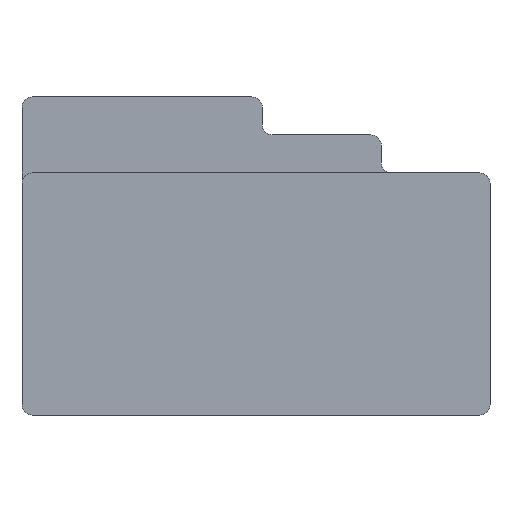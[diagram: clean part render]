
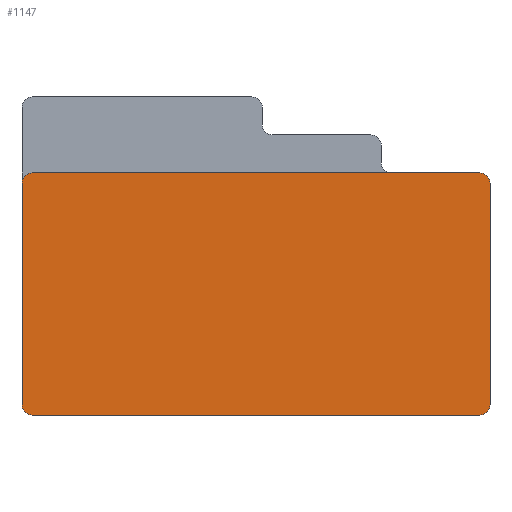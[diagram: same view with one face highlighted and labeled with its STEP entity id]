
A CAD part, front view. The second image highlights one B-rep face of the part: STEP entity #1147.
In plain terms, the highlighted planar face has unit normal (0, -1, 0).
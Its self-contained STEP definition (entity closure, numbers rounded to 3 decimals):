
#210=CARTESIAN_POINT('',(-10.9,-11.6,11.3));
#211=DIRECTION('',(0.,-1.,0.));
#212=DIRECTION('',(0.,0.,1.));
#213=AXIS2_PLACEMENT_3D('',#210,#211,#212);
#215=CARTESIAN_POINT('',(10.9,-11.6,11.3));
#216=DIRECTION('',(0.,-1.,0.));
#217=DIRECTION('',(1.,0.,0.));
#218=AXIS2_PLACEMENT_3D('',#215,#216,#217);
#220=CARTESIAN_POINT('',(10.9,-11.6,0.5));
#221=DIRECTION('',(0.,-1.,0.));
#222=DIRECTION('',(0.,0.,-1.));
#223=AXIS2_PLACEMENT_3D('',#220,#221,#222);
#225=CARTESIAN_POINT('',(-10.9,-11.6,0.5));
#226=DIRECTION('',(0.,-1.,0.));
#227=DIRECTION('',(-1.,0.,0.));
#228=AXIS2_PLACEMENT_3D('',#225,#226,#227);
#230=DIRECTION('',(0.,0.,1.));
#231=VECTOR('',#230,10.8);
#232=CARTESIAN_POINT('',(-11.4,-11.6,0.5));
#233=LINE('',#232,#231);
#318=DIRECTION('',(1.,0.,0.));
#319=VECTOR('',#318,21.8);
#320=CARTESIAN_POINT('',(-10.9,-11.6,11.8));
#321=LINE('',#320,#319);
#510=DIRECTION('',(1.,0.,0.));
#511=VECTOR('',#510,21.8);
#512=CARTESIAN_POINT('',(-10.9,-11.6,0.));
#513=LINE('',#512,#511);
#580=DIRECTION('',(0.,0.,1.));
#581=VECTOR('',#580,10.8);
#582=CARTESIAN_POINT('',(11.4,-11.6,0.5));
#583=LINE('',#582,#581);
#744=CARTESIAN_POINT('',(-10.9,-11.6,11.8));
#745=CARTESIAN_POINT('',(-11.4,-11.6,11.3));
#746=VERTEX_POINT('',#744);
#747=VERTEX_POINT('',#745);
#772=CARTESIAN_POINT('',(11.4,-11.6,11.3));
#773=VERTEX_POINT('',#772);
#774=CARTESIAN_POINT('',(10.9,-11.6,11.8));
#775=VERTEX_POINT('',#774);
#776=CARTESIAN_POINT('',(10.9,-11.6,0.));
#777=CARTESIAN_POINT('',(11.4,-11.6,0.5));
#778=VERTEX_POINT('',#776);
#779=VERTEX_POINT('',#777);
#788=CARTESIAN_POINT('',(-11.4,-11.6,0.5));
#789=VERTEX_POINT('',#788);
#790=CARTESIAN_POINT('',(-10.9,-11.6,0.));
#791=VERTEX_POINT('',#790);
#1125=CARTESIAN_POINT('',(-11.4,-11.6,0.));
#1126=DIRECTION('',(0.,-1.,0.));
#1127=DIRECTION('',(1.,0.,0.));
#1128=AXIS2_PLACEMENT_3D('',#1125,#1126,#1127);
#1129=PLANE('',#1128);
#1131=ORIENTED_EDGE('',*,*,#1130,.F.);
#1133=ORIENTED_EDGE('',*,*,#1132,.T.);
#1135=ORIENTED_EDGE('',*,*,#1134,.F.);
#1137=ORIENTED_EDGE('',*,*,#1136,.F.);
#1138=ORIENTED_EDGE('',*,*,#1115,.F.);
#1140=ORIENTED_EDGE('',*,*,#1139,.F.);
#1142=ORIENTED_EDGE('',*,*,#1141,.F.);
#1144=ORIENTED_EDGE('',*,*,#1143,.T.);
#1145=EDGE_LOOP('',(#1131,#1133,#1135,#1137,#1138,#1140,#1142,#1144));
#1146=FACE_OUTER_BOUND('',#1145,.F.);
#1147=ADVANCED_FACE('',(#1146),#1129,.T.);
#214=CIRCLE('',#213,0.5);
#219=CIRCLE('',#218,0.5);
#224=CIRCLE('',#223,0.5);
#229=CIRCLE('',#228,0.5);
#1115=EDGE_CURVE('',#778,#779,#224,.T.);
#1130=EDGE_CURVE('',#746,#747,#214,.T.);
#1132=EDGE_CURVE('',#746,#775,#321,.T.);
#1134=EDGE_CURVE('',#773,#775,#219,.T.);
#1136=EDGE_CURVE('',#779,#773,#583,.T.);
#1139=EDGE_CURVE('',#791,#778,#513,.T.);
#1141=EDGE_CURVE('',#789,#791,#229,.T.);
#1143=EDGE_CURVE('',#789,#747,#233,.T.);
